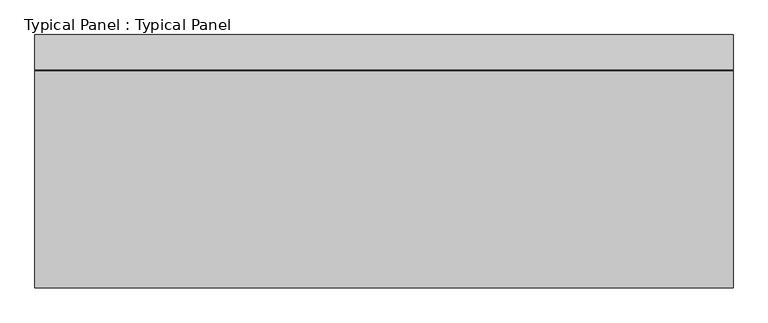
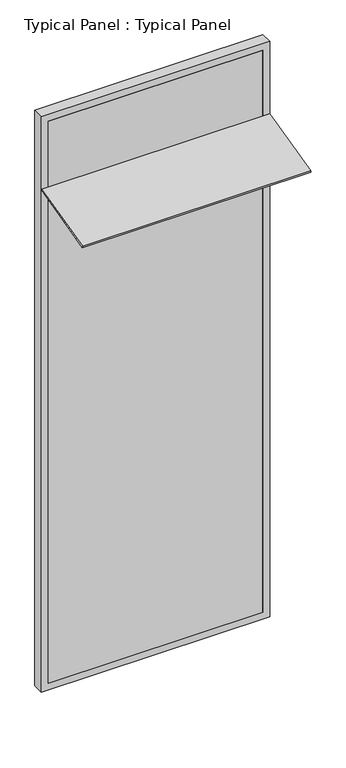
"""IFC4 building model written with IfcOpenShell, lengths in millimetres: plate geometry, Typical Panel : Typical Panel."""

from ifc_helpers import new_model, si_unit, frame, origin, place, context, project, spatial, polyline, outline, extrude, source, transform, mapped, element, save


def typical_panel_typical_panel_a65719b3(model_context):
    return source(origin(), model_context, "Body", "SweptSolid", [
        extrude(outline(polyline([(0.0, -480.0000001), (0.0, 0.0), (1500.0, 0.0), (1500.0, -480.0000001), (0.0, -480.0000001)])), frame((750.0, -468.3227297, 3374.1745328), z_axis=(0.0, -0.2419218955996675, 0.9702957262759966), x_axis=(-1.0, 0.0, 0.0)), (0.0, 0.0, 1.0), 10.0),
        extrude(outline(polyline([(0.0, -750.0), (0.0, 750.0), (4000.0, 750.0), (4000.0, -750.0), (0.0, -750.0)]), holes=[polyline([(45.0, 705.0), (45.0, -705.0), (3955.0, -705.0), (3955.0, 705.0), (45.0, 705.0)])]), frame((0.0, -1.5797986, 0.0), z_axis=(0.0, 1.0, 0.0), x_axis=(0.0, 0.0, 1.0)), (0.0, 0.0, 1.0), 75.0),
        extrude(outline(polyline([(705.0, -1.5797986), (-705.0, -1.5797986), (-705.0, 13.4202014), (705.0, 13.4202014), (705.0, -1.5797986)])), frame((0.0, 0.0, 45.0), z_axis=(0.0, 0.0, 1.0), x_axis=(1.0, 0.0, 0.0)), (0.0, 0.0, 1.0), 3910.0),
    ])


if __name__ == "__main__":
    model = new_model("IFC4")
    model_context = context("Model", 3, world=origin())
    ifc_project = project(units=[si_unit("LENGTHUNIT", "METRE", prefix="MILLI")], contexts=[model_context])
    site = spatial("IfcSite", under=ifc_project)
    building = spatial("IfcBuilding", under=site)
    placement = place(None, origin())
    typical_panel_typical_panel_shape = typical_panel_typical_panel_a65719b3(model_context)
    element("IfcPlate", 1, ObjectType="Typical Panel : Typical Panel", at=placement, inside=building, context=model_context, shape_type="MappedRepresentation", body=[
        mapped(typical_panel_typical_panel_shape, transform((0.0, 0.0, 0.0), x_axis=(1.0, 0.0, 0.0), y_axis=(0.0, 1.0, 0.0), z_axis=(0.0, 0.0, 1.0))),
    ])
    save(model, "model.ifc")
